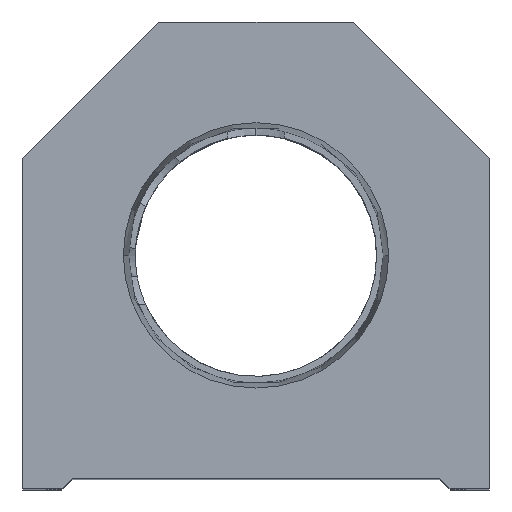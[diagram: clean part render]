
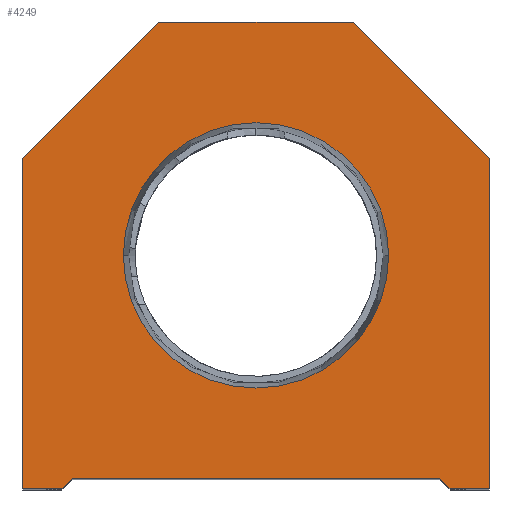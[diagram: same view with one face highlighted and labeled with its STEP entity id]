
A CAD part, top view. The second image highlights one B-rep face of the part: STEP entity #4249.
In plain terms, the highlighted planar face has unit normal (0, 0, 1).
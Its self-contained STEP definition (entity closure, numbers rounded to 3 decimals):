
#67 = CARTESIAN_POINT ( 'NONE',  ( -9.25, 9.25, 0. ) ) ;
#78 = CARTESIAN_POINT ( 'NONE',  ( -18.5, 0., 0. ) ) ;
#290 = VECTOR ( 'NONE', #8408, 1000. ) ;
#371 = VECTOR ( 'NONE', #12609, 1000. ) ;
#415 = DIRECTION ( 'NONE',  ( 1., 0., 0. ) ) ;
#694 = EDGE_CURVE ( 'NONE', #3690, #2671, #9945, .T. ) ;
#702 = DIRECTION ( 'NONE',  ( 1., 0., 0. ) ) ;
#760 = ORIENTED_EDGE ( 'NONE', *, *, #694, .T. ) ;
#788 = VECTOR ( 'NONE', #6084, 1000. ) ;
#832 = CARTESIAN_POINT ( 'NONE',  ( -9.25, 44.5, 0. ) ) ;
#1010 = LINE ( 'NONE', #3080, #4812 ) ;
#1190 = ORIENTED_EDGE ( 'NONE', *, *, #9054, .T. ) ;
#1266 = VECTOR ( 'NONE', #6902, 1000. ) ;
#1854 = ORIENTED_EDGE ( 'NONE', *, *, #11062, .T. ) ;
#1923 = VECTOR ( 'NONE', #13343, 1000. ) ;
#2202 = CARTESIAN_POINT ( 'NONE',  ( -22.25, 31.5, 0. ) ) ;
#2327 = AXIS2_PLACEMENT_3D ( 'NONE', #7513, #10692, #702 ) ;
#2427 = EDGE_CURVE ( 'NONE', #12523, #11332, #1010, .T. ) ;
#2557 = VERTEX_POINT ( 'NONE', #5693 ) ;
#2671 = VERTEX_POINT ( 'NONE', #2768 ) ;
#2768 = CARTESIAN_POINT ( 'NONE',  ( -17.5, 1., 0. ) ) ;
#2850 = VECTOR ( 'NONE', #6541, 1000. ) ;
#2971 = FACE_BOUND ( 'NONE', #6319, .T. ) ;
#3080 = CARTESIAN_POINT ( 'NONE',  ( 22.25, 0., 0. ) ) ;
#3116 = VERTEX_POINT ( 'NONE', #832 ) ;
#3239 = CARTESIAN_POINT ( 'NONE',  ( 12.647, 22.25, 0. ) ) ;
#3314 = CARTESIAN_POINT ( 'NONE',  ( 0., 22.25, 0. ) ) ;
#3337 = CARTESIAN_POINT ( 'NONE',  ( 9.25, 44.5, 0. ) ) ;
#3544 = ORIENTED_EDGE ( 'NONE', *, *, #11050, .T. ) ;
#3690 = VERTEX_POINT ( 'NONE', #78 ) ;
#3775 = EDGE_CURVE ( 'NONE', #8917, #11654, #4369, .T. ) ;
#4249 = ADVANCED_FACE ( 'NONE', ( #2971, #7450 ), #5044, .T. ) ;
#4369 = CIRCLE ( 'NONE', #5290, 12.647 ) ;
#4515 = CARTESIAN_POINT ( 'NONE',  ( 18.5, 0., 0. ) ) ;
#4812 = VECTOR ( 'NONE', #9671, 1000. ) ;
#4837 = ORIENTED_EDGE ( 'NONE', *, *, #10962, .T. ) ;
#4865 = CARTESIAN_POINT ( 'NONE',  ( -22.25, 0., 0. ) ) ;
#5004 = CARTESIAN_POINT ( 'NONE',  ( 17.5, 1., 0. ) ) ;
#5044 = PLANE ( 'NONE',  #2327 ) ;
#5290 = AXIS2_PLACEMENT_3D ( 'NONE', #5974, #10297, #13502 ) ;
#5330 = ORIENTED_EDGE ( 'NONE', *, *, #3775, .F. ) ;
#5693 = CARTESIAN_POINT ( 'NONE',  ( 9.25, 44.5, 0. ) ) ;
#5742 = VERTEX_POINT ( 'NONE', #2202 ) ;
#5769 = LINE ( 'NONE', #9019, #1266 ) ;
#5974 = CARTESIAN_POINT ( 'NONE',  ( 0., 22.25, 0. ) ) ;
#6084 = DIRECTION ( 'NONE',  ( 1., 0., 0. ) ) ;
#6319 = EDGE_LOOP ( 'NONE', ( #5330, #14061 ) ) ;
#6531 = ORIENTED_EDGE ( 'NONE', *, *, #13714, .T. ) ;
#6541 = DIRECTION ( 'NONE',  ( -1., 0., 0. ) ) ;
#6581 = DIRECTION ( 'NONE',  ( 1., 0., 0. ) ) ;
#6902 = DIRECTION ( 'NONE',  ( -0.707, 0.707, 0. ) ) ;
#7066 = DIRECTION ( 'NONE',  ( 0.707, -0.707, 0. ) ) ;
#7170 = VECTOR ( 'NONE', #415, 1000. ) ;
#7289 = CARTESIAN_POINT ( 'NONE',  ( -17.5, 0., 0. ) ) ;
#7404 = LINE ( 'NONE', #10650, #13965 ) ;
#7450 = FACE_OUTER_BOUND ( 'NONE', #11175, .T. ) ;
#7513 = CARTESIAN_POINT ( 'NONE',  ( 0., 0., 0. ) ) ;
#8063 = LINE ( 'NONE', #12387, #12177 ) ;
#8189 = CARTESIAN_POINT ( 'NONE',  ( 22.25, 0., 0. ) ) ;
#8198 = LINE ( 'NONE', #7289, #788 ) ;
#8246 = ORIENTED_EDGE ( 'NONE', *, *, #13014, .T. ) ;
#8264 = CARTESIAN_POINT ( 'NONE',  ( -12.647, 22.25, 0. ) ) ;
#8281 = LINE ( 'NONE', #13953, #371 ) ;
#8408 = DIRECTION ( 'NONE',  ( 0.707, 0.707, 0. ) ) ;
#8641 = ORIENTED_EDGE ( 'NONE', *, *, #2427, .T. ) ;
#8917 = VERTEX_POINT ( 'NONE', #3239 ) ;
#9001 = CARTESIAN_POINT ( 'NONE',  ( -17.5, 1., 0. ) ) ;
#9019 = CARTESIAN_POINT ( 'NONE',  ( 22.25, 31.5, 0. ) ) ;
#9054 = EDGE_CURVE ( 'NONE', #10544, #3690, #8198, .T. ) ;
#9609 = ORIENTED_EDGE ( 'NONE', *, *, #9708, .T. ) ;
#9657 = DIRECTION ( 'NONE',  ( -0.707, -0.707, 0. ) ) ;
#9671 = DIRECTION ( 'NONE',  ( 0., 1., 0. ) ) ;
#9708 = EDGE_CURVE ( 'NONE', #2671, #13091, #12340, .T. ) ;
#9764 = DIRECTION ( 'NONE',  ( 0., 0., 1. ) ) ;
#9945 = LINE ( 'NONE', #67, #290 ) ;
#10141 = CARTESIAN_POINT ( 'NONE',  ( 17.5, 0., 0. ) ) ;
#10167 = VERTEX_POINT ( 'NONE', #4515 ) ;
#10297 = DIRECTION ( 'NONE',  ( 0., 0., 1. ) ) ;
#10492 = CARTESIAN_POINT ( 'NONE',  ( 22.25, 31.5, 0. ) ) ;
#10544 = VERTEX_POINT ( 'NONE', #4865 ) ;
#10583 = AXIS2_PLACEMENT_3D ( 'NONE', #3314, #9764, #6581 ) ;
#10650 = CARTESIAN_POINT ( 'NONE',  ( -22.25, 31.5, 0. ) ) ;
#10692 = DIRECTION ( 'NONE',  ( 0., 0., 1. ) ) ;
#10962 = EDGE_CURVE ( 'NONE', #11332, #2557, #5769, .T. ) ;
#11050 = EDGE_CURVE ( 'NONE', #3116, #5742, #7404, .T. ) ;
#11062 = EDGE_CURVE ( 'NONE', #2557, #3116, #11723, .T. ) ;
#11175 = EDGE_LOOP ( 'NONE', ( #1190, #760, #9609, #6531, #11730, #8641, #4837, #1854, #3544, #8246 ) ) ;
#11241 = EDGE_CURVE ( 'NONE', #10167, #12523, #13347, .T. ) ;
#11332 = VERTEX_POINT ( 'NONE', #10492 ) ;
#11654 = VERTEX_POINT ( 'NONE', #8264 ) ;
#11723 = LINE ( 'NONE', #3337, #2850 ) ;
#11730 = ORIENTED_EDGE ( 'NONE', *, *, #11241, .T. ) ;
#11936 = CIRCLE ( 'NONE', #10583, 12.647 ) ;
#12177 = VECTOR ( 'NONE', #7066, 1000. ) ;
#12340 = LINE ( 'NONE', #9001, #1923 ) ;
#12387 = CARTESIAN_POINT ( 'NONE',  ( 9.25, 9.25, 0. ) ) ;
#12523 = VERTEX_POINT ( 'NONE', #8189 ) ;
#12609 = DIRECTION ( 'NONE',  ( 0., -1., 0. ) ) ;
#13014 = EDGE_CURVE ( 'NONE', #5742, #10544, #8281, .T. ) ;
#13091 = VERTEX_POINT ( 'NONE', #5004 ) ;
#13343 = DIRECTION ( 'NONE',  ( 1., 0., 0. ) ) ;
#13347 = LINE ( 'NONE', #10141, #7170 ) ;
#13502 = DIRECTION ( 'NONE',  ( 1., 0., 0. ) ) ;
#13552 = EDGE_CURVE ( 'NONE', #11654, #8917, #11936, .T. ) ;
#13714 = EDGE_CURVE ( 'NONE', #13091, #10167, #8063, .T. ) ;
#13953 = CARTESIAN_POINT ( 'NONE',  ( -22.25, 0., 0. ) ) ;
#13965 = VECTOR ( 'NONE', #9657, 1000. ) ;
#14061 = ORIENTED_EDGE ( 'NONE', *, *, #13552, .F. ) ;
